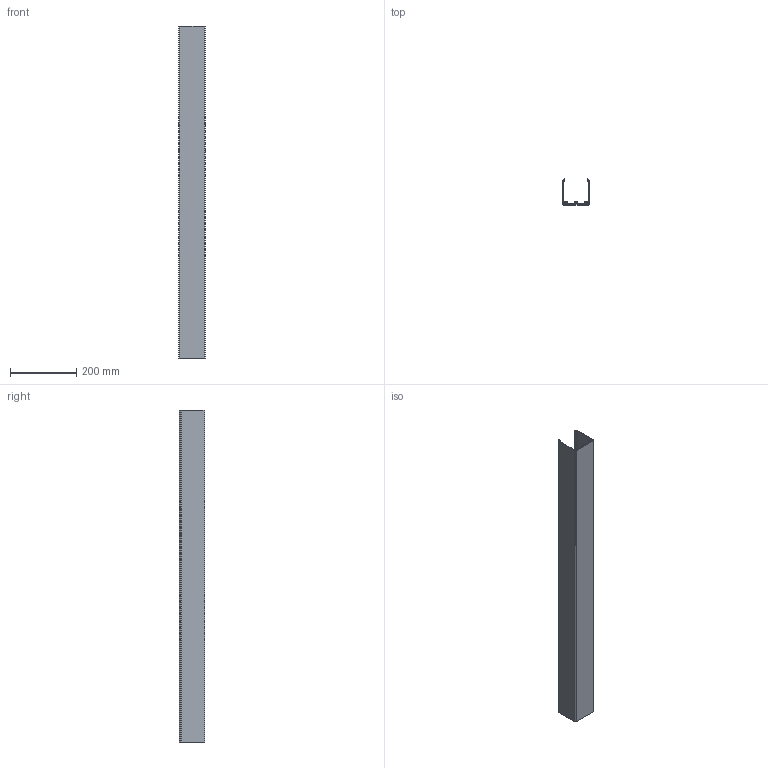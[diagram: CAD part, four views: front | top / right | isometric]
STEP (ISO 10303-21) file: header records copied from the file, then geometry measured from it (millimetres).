
FILE_DESCRIPTION (( 'STEP AP214' ), '1' );
FILE_NAME ('10255_KAB8080.STEP', '2016-05-03T13:10:04', ( '' ), ( '' ), 'SwSTEP 2.0', 'SolidWorks 2015', '' );
FILE_SCHEMA (( 'AUTOMOTIVE_DESIGN' ));
Length unit declared in the file: millimetre
Products named in the file (1): 10255_KAB8080
Bounding box: 80 x 78.3 x 1000 mm (x, y, z)
Volume: 631668.4 mm3; surface area: 589590.7 mm2
Topology: 1 solids, 1 shells, 186 faces, 552 edges, 368 vertices
Faces by surface type: plane 148, cylinder 38
Entity records: 6206 total; most frequent: CARTESIAN_POINT 1107, ORIENTED_EDGE 1104, DIRECTION 1002, EDGE_CURVE 552, VECTOR 476, LINE 476, VERTEX_POINT 368, AXIS2_PLACEMENT_3D 263
